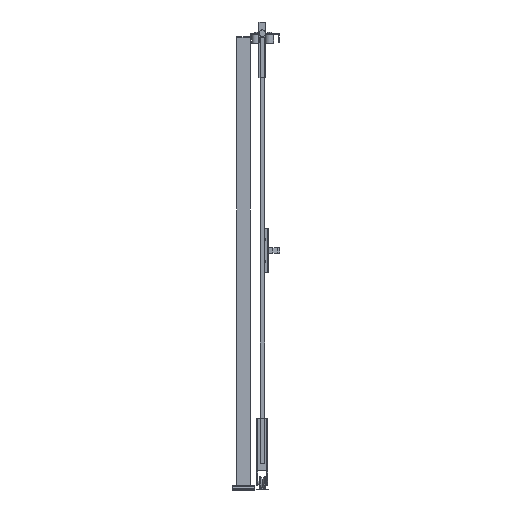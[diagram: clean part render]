
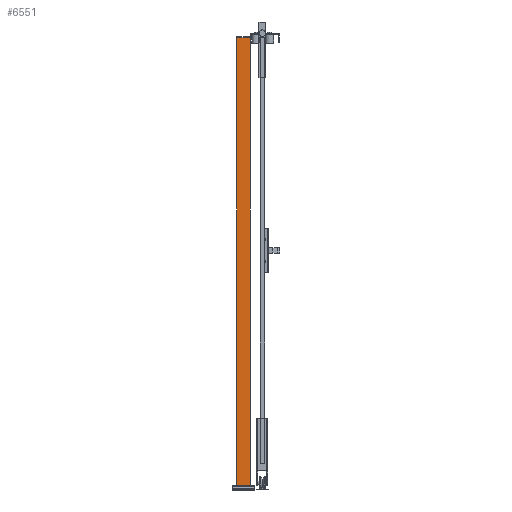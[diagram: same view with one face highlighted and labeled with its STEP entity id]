
A CAD part, left-side view. The second image highlights one B-rep face of the part: STEP entity #6551.
In plain terms, the highlighted planar face has unit normal (-1, 0, 0) as drawn and (0, 1, 0) by its records, which use the part's own axes.
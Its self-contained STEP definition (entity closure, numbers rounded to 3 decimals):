
#665=FACE_OUTER_BOUND('',#1137,.T.);
#1137=EDGE_LOOP('',(#4015,#4016,#4017,#4018));
#1674=VERTEX_POINT('',#12985);
#1675=VERTEX_POINT('',#12987);
#1677=VERTEX_POINT('',#12993);
#1680=VERTEX_POINT('',#12998);
#2630=EDGE_CURVE('',#1674,#1675,#7443,.T.);
#2636=EDGE_CURVE('',#1680,#1677,#7449,.T.);
#2639=EDGE_CURVE('',#1675,#1680,#7452,.T.);
#2640=EDGE_CURVE('',#1674,#1677,#7453,.T.);
#4015=ORIENTED_EDGE('',*,*,#2640,.T.);
#4016=ORIENTED_EDGE('',*,*,#2636,.F.);
#4017=ORIENTED_EDGE('',*,*,#2639,.F.);
#4018=ORIENTED_EDGE('',*,*,#2630,.F.);
#6143=PLANE('',#9412);
#6551=ADVANCED_FACE('',(#665),#6143,.F.);
#7443=LINE('',#12988,#8476);
#7449=LINE('',#13000,#8482);
#7452=LINE('',#13005,#8485);
#7453=LINE('',#13007,#8486);
#8476=VECTOR('',#10352,1.);
#8482=VECTOR('',#10360,1.);
#8485=VECTOR('',#10367,1.);
#8486=VECTOR('',#10370,1.);
#9412=AXIS2_PLACEMENT_3D('',#13006,#10368,#10369);
#10352=DIRECTION('',(-1.,0.,0.));
#10360=DIRECTION('',(1.,0.,0.));
#10367=DIRECTION('',(0.,0.,-1.));
#10368=DIRECTION('center_axis',(0.,-1.,0.));
#10369=DIRECTION('ref_axis',(0.,0.,-1.));
#10370=DIRECTION('',(0.,0.,-1.));
#12985=CARTESIAN_POINT('',(30.,30.,2020.));
#12987=CARTESIAN_POINT('',(-30.,30.,2020.));
#12988=CARTESIAN_POINT('',(0.,30.,2020.));
#12993=CARTESIAN_POINT('',(30.,30.,20.));
#12998=CARTESIAN_POINT('',(-30.,30.,20.));
#13000=CARTESIAN_POINT('',(0.,30.,20.));
#13005=CARTESIAN_POINT('',(-30.,30.,1020.));
#13006=CARTESIAN_POINT('Origin',(0.,30.,
1020.));
#13007=CARTESIAN_POINT('',(30.,30.,1020.));
